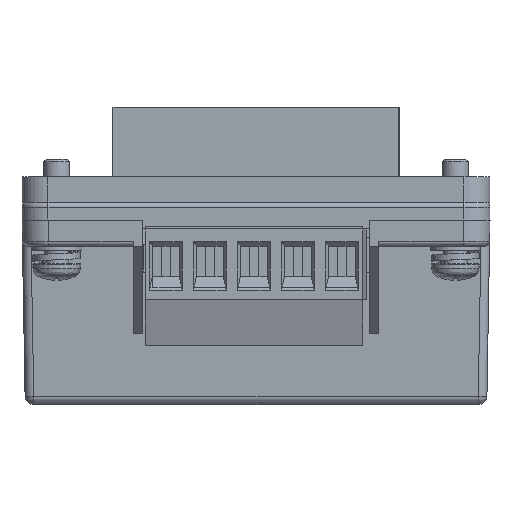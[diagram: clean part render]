
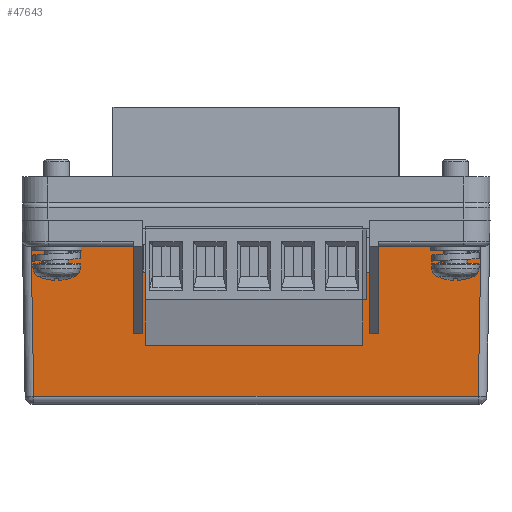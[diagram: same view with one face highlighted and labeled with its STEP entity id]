
A CAD part, front view. The second image highlights one B-rep face of the part: STEP entity #47643.
In plain terms, the highlighted planar face has unit normal (0, -1, -0.018) as drawn and (0, -1, 0.017) by its records, which use the part's own axes.
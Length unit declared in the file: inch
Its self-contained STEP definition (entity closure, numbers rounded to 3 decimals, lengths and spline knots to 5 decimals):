
#146 = CARTESIAN_POINT ( 'NONE',  ( -0.5374, -1.49107, 0.51671 ) ) ;
#484 = VECTOR ( 'NONE', #9381, 39.37008 ) ;
#1089 = LINE ( 'NONE', #41300, #20812 ) ;
#1194 = CARTESIAN_POINT ( 'NONE',  ( 1.02157, -1.49803, 0.11811 ) ) ;
#1707 = CARTESIAN_POINT ( 'NONE',  ( -1.00967, -1.48613, 0.7999 ) ) ;
#1735 = LINE ( 'NONE', #36883, #484 ) ;
#2509 = CARTESIAN_POINT ( 'NONE',  ( -0.51772, -1.49803, 0.11811 ) ) ;
#2794 = LINE ( 'NONE', #2509, #12058 ) ;
#4275 = VERTEX_POINT ( 'NONE', #30425 ) ;
#4572 = DIRECTION ( 'NONE',  ( 0., 0.017, 1. ) ) ;
#5517 = CARTESIAN_POINT ( 'NONE',  ( 0.5374, -1.49107, 0.51671 ) ) ;
#5890 = ORIENTED_EDGE ( 'NONE', *, *, #25920, .F. ) ;
#7064 = VECTOR ( 'NONE', #31079, 39.37008 ) ;
#8026 = ORIENTED_EDGE ( 'NONE', *, *, #16173, .T. ) ;
#8791 = ORIENTED_EDGE ( 'NONE', *, *, #21025, .T. ) ;
#8895 = VERTEX_POINT ( 'NONE', #32480 ) ;
#9121 = EDGE_CURVE ( 'NONE', #30448, #4275, #29377, .T. ) ;
#9381 = DIRECTION ( 'NONE',  ( 1., 0., 0. ) ) ;
#9662 = VERTEX_POINT ( 'NONE', #20312 ) ;
#9790 = CARTESIAN_POINT ( 'NONE',  ( -0.55709, -1.49803, 0.11811 ) ) ;
#10318 = LINE ( 'NONE', #14879, #30005 ) ;
#11340 = CARTESIAN_POINT ( 'NONE',  ( 1.06299, -1.49803, 0.11811 ) ) ;
#12058 = VECTOR ( 'NONE', #30033, 39.37008 ) ;
#12111 = LINE ( 'NONE', #44621, #43507 ) ;
#12157 = CARTESIAN_POINT ( 'NONE',  ( 0.51772, -1.49803, 0.11811 ) ) ;
#13515 = ORIENTED_EDGE ( 'NONE', *, *, #23604, .T. ) ;
#14551 = DIRECTION ( 'NONE',  ( 0., -1., 0.017 ) ) ;
#14879 = CARTESIAN_POINT ( 'NONE',  ( 1.06299, -1.48613, 0.7999 ) ) ;
#14889 = ORIENTED_EDGE ( 'NONE', *, *, #32602, .F. ) ;
#15052 = LINE ( 'NONE', #1707, #25502 ) ;
#15780 = VERTEX_POINT ( 'NONE', #23766 ) ;
#16173 = EDGE_CURVE ( 'NONE', #39349, #32226, #18569, .T. ) ;
#17199 = VERTEX_POINT ( 'NONE', #34796 ) ;
#17576 = EDGE_CURVE ( 'NONE', #17199, #46566, #12111, .T. ) ;
#18395 = DIRECTION ( 'NONE',  ( 0., 0.017, 1. ) ) ;
#18569 = LINE ( 'NONE', #11340, #29028 ) ;
#18622 = LINE ( 'NONE', #12157, #47581 ) ;
#18792 = CARTESIAN_POINT ( 'NONE',  ( 0.51772, -1.49597, 0.23622 ) ) ;
#18820 = DIRECTION ( 'NONE',  ( -1., 0., 0. ) ) ;
#20312 = CARTESIAN_POINT ( 'NONE',  ( 1.00967, -1.48613, 0.7999 ) ) ;
#20392 = ORIENTED_EDGE ( 'NONE', *, *, #49965, .T. ) ;
#20812 = VECTOR ( 'NONE', #45322, 39.37008 ) ;
#20954 = ORIENTED_EDGE ( 'NONE', *, *, #34603, .T. ) ;
#21025 = EDGE_CURVE ( 'NONE', #15780, #32740, #15052, .T. ) ;
#22138 = LINE ( 'NONE', #146, #43101 ) ;
#22992 = EDGE_CURVE ( 'NONE', #32226, #9662, #1089, .T. ) ;
#23341 = CARTESIAN_POINT ( 'NONE',  ( 0.55709, -1.49803, 0.11811 ) ) ;
#23535 = ORIENTED_EDGE ( 'NONE', *, *, #22992, .T. ) ;
#23604 = EDGE_CURVE ( 'NONE', #8895, #17199, #2794, .T. ) ;
#23766 = CARTESIAN_POINT ( 'NONE',  ( -1.00967, -1.48613, 0.7999 ) ) ;
#24251 = VERTEX_POINT ( 'NONE', #45683 ) ;
#25292 = DIRECTION ( 'NONE',  ( -0.017, -0.017, -1. ) ) ;
#25502 = VECTOR ( 'NONE', #25292, 39.37008 ) ;
#25520 = CARTESIAN_POINT ( 'NONE',  ( 0.55709, -1.49803, 0.11811 ) ) ;
#25920 = EDGE_CURVE ( 'NONE', #38778, #24251, #38888, .T. ) ;
#26696 = ORIENTED_EDGE ( 'NONE', *, *, #17576, .T. ) ;
#27714 = EDGE_LOOP ( 'NONE', ( #20954, #8026, #23535, #28597, #8791, #41334, #48029, #14889, #13515, #26696, #20392, #5890 ) ) ;
#28597 = ORIENTED_EDGE ( 'NONE', *, *, #33746, .T. ) ;
#29028 = VECTOR ( 'NONE', #34883, 39.37008 ) ;
#29143 = DIRECTION ( 'NONE',  ( -1., 0., 0. ) ) ;
#29377 = LINE ( 'NONE', #37976, #50385 ) ;
#30005 = VECTOR ( 'NONE', #18820, 39.37008 ) ;
#30033 = DIRECTION ( 'NONE',  ( 0., -0.017, -1. ) ) ;
#30425 = CARTESIAN_POINT ( 'NONE',  ( -0.55709, -1.49107, 0.51671 ) ) ;
#30448 = VERTEX_POINT ( 'NONE', #9790 ) ;
#31079 = DIRECTION ( 'NONE',  ( 0., -0.017, -1. ) ) ;
#31451 = DIRECTION ( 'NONE',  ( -1., 0., 0. ) ) ;
#32226 = VERTEX_POINT ( 'NONE', #1194 ) ;
#32480 = CARTESIAN_POINT ( 'NONE',  ( -0.51772, -1.49107, 0.51671 ) ) ;
#32602 = EDGE_CURVE ( 'NONE', #8895, #4275, #22138, .T. ) ;
#32740 = VERTEX_POINT ( 'NONE', #40243 ) ;
#33746 = EDGE_CURVE ( 'NONE', #9662, #15780, #10318, .T. ) ;
#33972 = PLANE ( 'NONE',  #40023 ) ;
#34603 = EDGE_CURVE ( 'NONE', #38778, #39349, #38464, .T. ) ;
#34796 = CARTESIAN_POINT ( 'NONE',  ( -0.51772, -1.49597, 0.23622 ) ) ;
#34883 = DIRECTION ( 'NONE',  ( 1., 0., 0. ) ) ;
#35742 = CARTESIAN_POINT ( 'NONE',  ( 0.55709, -1.49107, 0.51671 ) ) ;
#36883 = CARTESIAN_POINT ( 'NONE',  ( 1.06299, -1.49803, 0.11811 ) ) ;
#37976 = CARTESIAN_POINT ( 'NONE',  ( -0.55709, -1.49803, 0.11811 ) ) ;
#38092 = CARTESIAN_POINT ( 'NONE',  ( 1.06299, -1.49803, 0.11811 ) ) ;
#38464 = LINE ( 'NONE', #23341, #7064 ) ;
#38778 = VERTEX_POINT ( 'NONE', #35742 ) ;
#38888 = LINE ( 'NONE', #5517, #49419 ) ;
#39349 = VERTEX_POINT ( 'NONE', #25520 ) ;
#40023 = AXIS2_PLACEMENT_3D ( 'NONE', #38092, #14551, #42075 ) ;
#40243 = CARTESIAN_POINT ( 'NONE',  ( -1.02157, -1.49803, 0.11811 ) ) ;
#40622 = DIRECTION ( 'NONE',  ( 1., 0., 0. ) ) ;
#41300 = CARTESIAN_POINT ( 'NONE',  ( 1.02157, -1.49803, 0.11811 ) ) ;
#41334 = ORIENTED_EDGE ( 'NONE', *, *, #41523, .T. ) ;
#41523 = EDGE_CURVE ( 'NONE', #32740, #30448, #1735, .T. ) ;
#42075 = DIRECTION ( 'NONE',  ( 0., -0.017, -1. ) ) ;
#42660 = FACE_OUTER_BOUND ( 'NONE', #27714, .T. ) ;
#43101 = VECTOR ( 'NONE', #31451, 39.37008 ) ;
#43507 = VECTOR ( 'NONE', #40622, 39.37008 ) ;
#44621 = CARTESIAN_POINT ( 'NONE',  ( -0.3189, -1.49597, 0.23622 ) ) ;
#45322 = DIRECTION ( 'NONE',  ( -0.017, 0.017, 1. ) ) ;
#45683 = CARTESIAN_POINT ( 'NONE',  ( 0.51772, -1.49107, 0.51671 ) ) ;
#46566 = VERTEX_POINT ( 'NONE', #18792 ) ;
#47581 = VECTOR ( 'NONE', #4572, 39.37008 ) ;
#47643 = ADVANCED_FACE ( 'NONE', ( #42660 ), #33972, .T. ) ;
#48029 = ORIENTED_EDGE ( 'NONE', *, *, #9121, .T. ) ;
#49419 = VECTOR ( 'NONE', #29143, 39.37008 ) ;
#49965 = EDGE_CURVE ( 'NONE', #46566, #24251, #18622, .T. ) ;
#50385 = VECTOR ( 'NONE', #18395, 39.37008 ) ;
